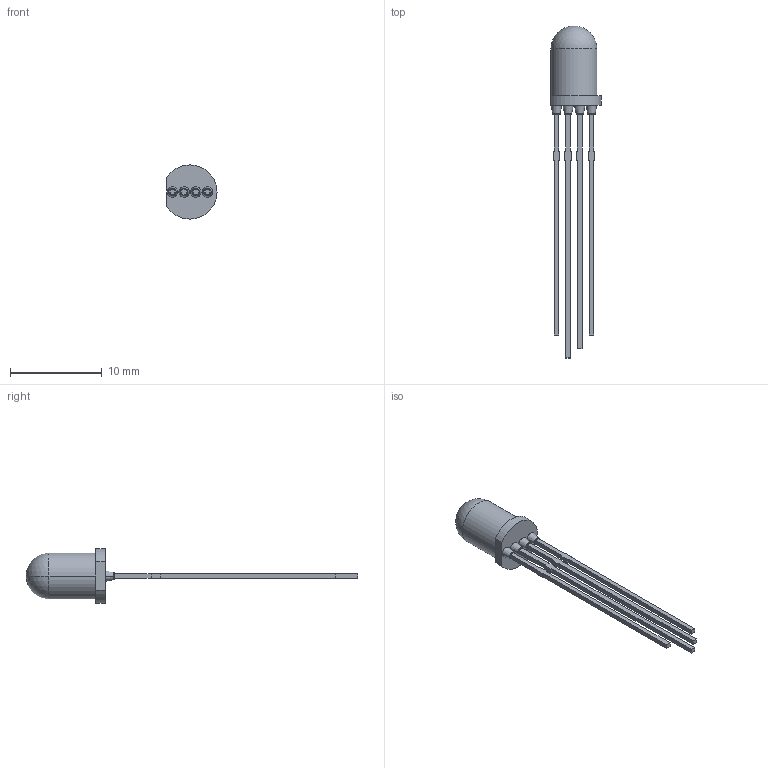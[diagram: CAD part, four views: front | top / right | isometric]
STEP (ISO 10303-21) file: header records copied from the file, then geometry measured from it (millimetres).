
FILE_DESCRIPTION (( 'STEP AP214' ), '1' );
FILE_NAME ('WP154A4SUREQBFZGC.STEP', '2021-12-07T00:11:48', ( '' ), ( '' ), 'SwSTEP 2.0', 'SolidWorks 2017', '' );
FILE_SCHEMA (( 'AUTOMOTIVE_DESIGN' ));
Length unit declared in the file: millimetre
Products named in the file (1): WP154A4SUREQBFZGC
Bounding box: 5.45 x 36.1 x 5.9 mm (x, y, z)
Volume: 187.6 mm3; surface area: 385.3 mm2
Topology: 5 solids, 5 shells, 85 faces, 206 edges, 133 vertices
Faces by surface type: plane 63, cone 8, torus 8, cylinder 4, sphere 2
Entity records: 2500 total; most frequent: CARTESIAN_POINT 419, DIRECTION 416, ORIENTED_EDGE 404, EDGE_CURVE 202, VECTOR 160, LINE 160, VERTEX_POINT 131, AXIS2_PLACEMENT_3D 128
